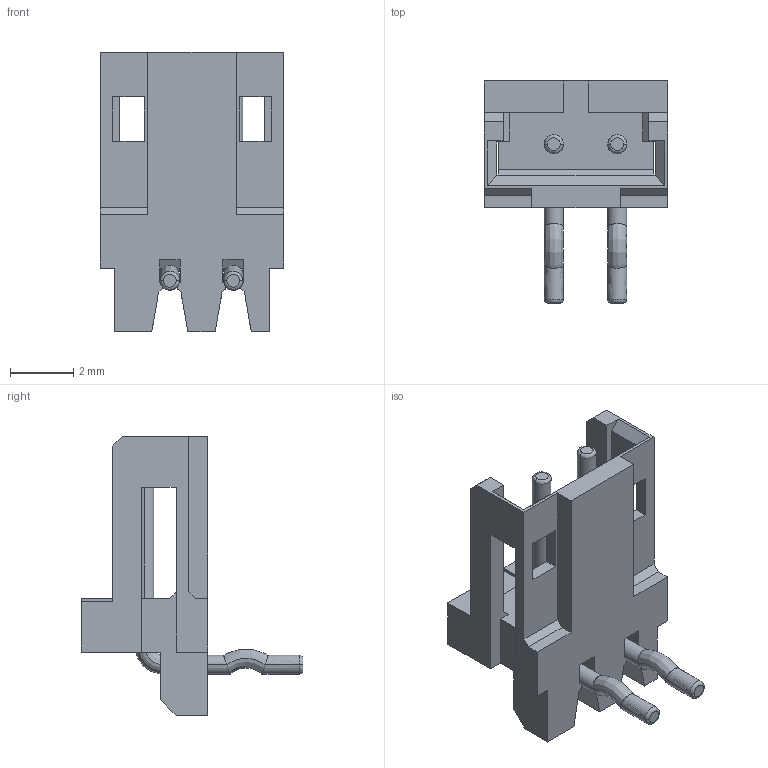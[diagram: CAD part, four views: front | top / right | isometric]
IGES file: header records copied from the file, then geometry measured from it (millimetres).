
Start section: START RECORD GO HERE.
Global section: file name: 00_8283_0211_00_xxx.igs; native system: IBM CATIA IGES - CATIA Version 5 Release 14 ; preprocessor: CATIA Version 5 Release 14 ; author: KYOCERA ELCO CORPORATION; organization: R&D; date: 20090831.140350; units: millimetre
Bounding box: 5.8 x 7 x 8.8 mm (x, y, z)
Surface area: 251.4 mm2 (no closed solid volume)
Topology: 0 solids, 113 shells, 113 faces, 610 edges, 610 vertices
Faces by surface type: plane 81, revolution 32
